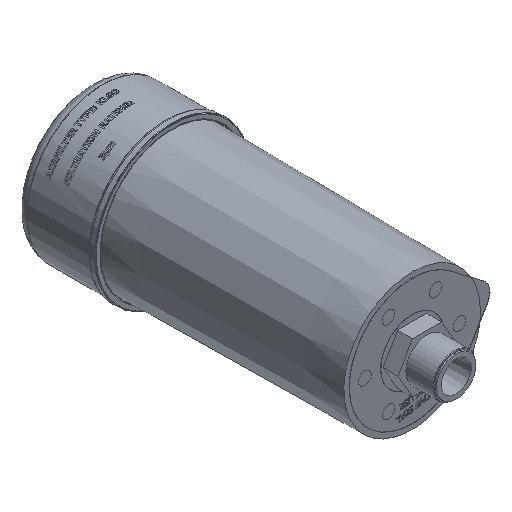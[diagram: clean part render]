
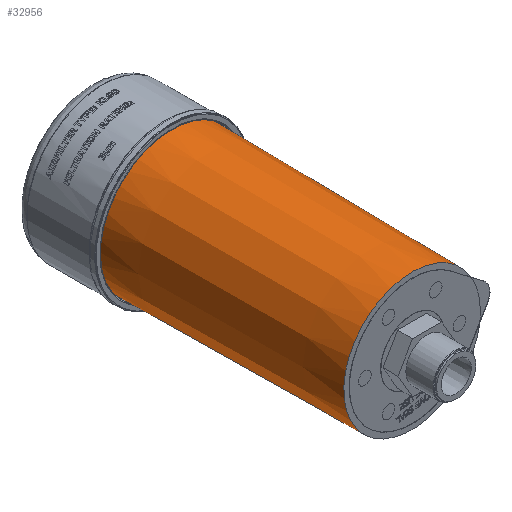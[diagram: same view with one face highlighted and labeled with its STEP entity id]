
A CAD part, isometric view. The second image highlights one B-rep face of the part: STEP entity #32956.
In plain terms, the highlighted conical face has half-angle 0.603 degrees and reference radius 44.184 mm.
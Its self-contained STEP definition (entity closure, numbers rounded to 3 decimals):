
#855=CIRCLE('',#35224,45.);
#856=CIRCLE('',#35225,45.);
#857=CIRCLE('',#35226,43.367);
#858=CIRCLE('',#35227,43.367);
#859=CIRCLE('',#35228,43.367);
#860=CIRCLE('',#35229,45.);
#1267=CONICAL_SURFACE('',#35223,44.184,0.011);
#3217=FACE_OUTER_BOUND('',#5101,.T.);
#5101=EDGE_LOOP('',(#23185,#23186,#23187,#23188,#23189,#23190,#23191,#23192));
#7473=LINE('',#52660,#10284);
#10284=VECTOR('',#39462,44.184);
#13698=VERTEX_POINT('',#52654);
#13699=VERTEX_POINT('',#52655);
#13700=VERTEX_POINT('',#52657);
#13701=VERTEX_POINT('',#52659);
#13702=VERTEX_POINT('',#52661);
#13703=VERTEX_POINT('',#52663);
#17275=EDGE_CURVE('',#13698,#13699,#855,.T.);
#17276=EDGE_CURVE('',#13700,#13698,#856,.T.);
#17277=EDGE_CURVE('',#13700,#13701,#7473,.T.);
#17278=EDGE_CURVE('',#13701,#13702,#857,.T.);
#17279=EDGE_CURVE('',#13702,#13703,#858,.T.);
#17280=EDGE_CURVE('',#13703,#13701,#859,.T.);
#17281=EDGE_CURVE('',#13699,#13700,#860,.T.);
#23185=ORIENTED_EDGE('',*,*,#17275,.F.);
#23186=ORIENTED_EDGE('',*,*,#17276,.F.);
#23187=ORIENTED_EDGE('',*,*,#17277,.T.);
#23188=ORIENTED_EDGE('',*,*,#17278,.T.);
#23189=ORIENTED_EDGE('',*,*,#17279,.T.);
#23190=ORIENTED_EDGE('',*,*,#17280,.T.);
#23191=ORIENTED_EDGE('',*,*,#17277,.F.);
#23192=ORIENTED_EDGE('',*,*,#17281,.F.);
#32956=ADVANCED_FACE('',(#3217),#1267,.T.);
#35223=AXIS2_PLACEMENT_3D('',#52653,#39456,#39457);
#35224=AXIS2_PLACEMENT_3D('',#52656,#39458,#39459);
#35225=AXIS2_PLACEMENT_3D('',#52658,#39460,#39461);
#35226=AXIS2_PLACEMENT_3D('',#52662,#39463,#39464);
#35227=AXIS2_PLACEMENT_3D('',#52664,#39465,#39466);
#35228=AXIS2_PLACEMENT_3D('',#52665,#39467,#39468);
#35229=AXIS2_PLACEMENT_3D('',#52666,#39469,#39470);
#39456=DIRECTION('center_axis',(0.,1.,0.));
#39457=DIRECTION('ref_axis',(-1.,0.,0.));
#39458=DIRECTION('center_axis',(0.,1.,0.));
#39459=DIRECTION('ref_axis',(-1.,0.,0.));
#39460=DIRECTION('center_axis',(0.,1.,0.));
#39461=DIRECTION('ref_axis',(-1.,0.,0.));
#39462=DIRECTION('',(-0.011,-1.,0.));
#39463=DIRECTION('center_axis',(0.,1.,0.));
#39464=DIRECTION('ref_axis',(-1.,0.,0.));
#39465=DIRECTION('center_axis',(0.,1.,0.));
#39466=DIRECTION('ref_axis',(-1.,0.,0.));
#39467=DIRECTION('center_axis',(0.,1.,0.));
#39468=DIRECTION('ref_axis',(-1.,0.,0.));
#39469=DIRECTION('center_axis',(0.,1.,0.));
#39470=DIRECTION('ref_axis',(-1.,0.,0.));
#52653=CARTESIAN_POINT('Origin',(0.,-6.,0.));
#52654=CARTESIAN_POINT('',(-45.,71.5,0.));
#52655=CARTESIAN_POINT('',(-27.566,71.5,35.569));
#52656=CARTESIAN_POINT('Origin',(0.,71.5,0.));
#52657=CARTESIAN_POINT('',(45.,71.5,0.));
#52658=CARTESIAN_POINT('Origin',(0.,71.5,0.));
#52659=CARTESIAN_POINT('',(43.367,-83.5,0.));
#52660=CARTESIAN_POINT('',(44.184,-6.,0.));
#52661=CARTESIAN_POINT('',(43.004,-83.5,-5.598));
#52662=CARTESIAN_POINT('Origin',(0.,-83.5,0.));
#52663=CARTESIAN_POINT('',(37.577,-83.5,21.649));
#52664=CARTESIAN_POINT('Origin',(0.,-83.5,0.));
#52665=CARTESIAN_POINT('Origin',(0.,-83.5,0.));
#52666=CARTESIAN_POINT('Origin',(0.,71.5,0.));
